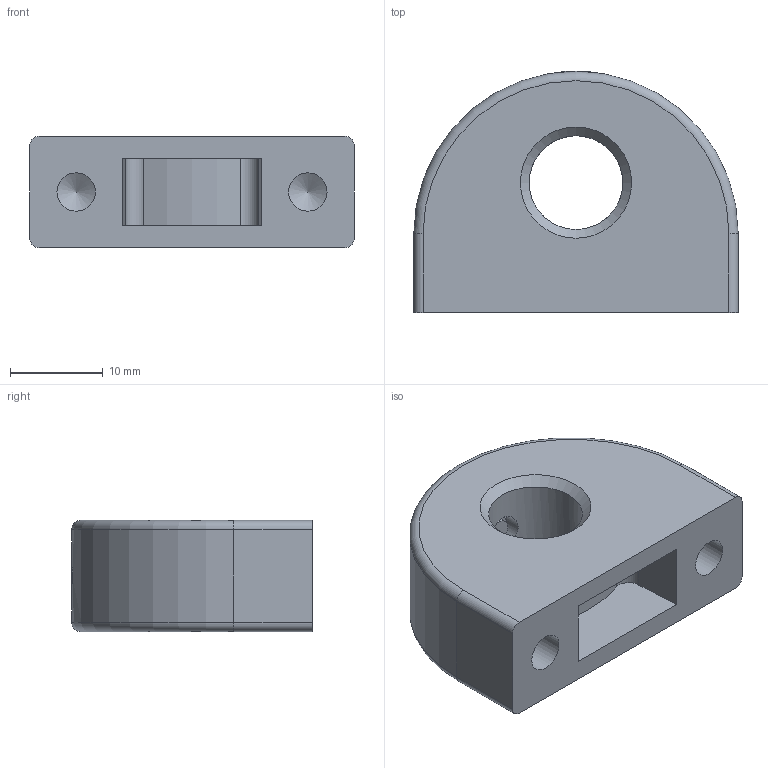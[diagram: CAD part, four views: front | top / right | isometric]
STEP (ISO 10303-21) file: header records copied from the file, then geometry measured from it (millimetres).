
FILE_DESCRIPTION( ( 'STEP AP203' ), '1' );
FILE_NAME( 'C:/Temp/Ganter_Step_05_03_2020/data/3_1/gn412_1/Mounting block GN 412.1-35-M12-2.stp', '2020-03-12T08:30:55', ( 'License CC BY-ND 4.0' ), ( 'CADENAS' ), ' ', 'PARTsolutions', ' ' );
FILE_SCHEMA( ( 'CONFIG_CONTROL_DESIGN' ) );
Length unit declared in the file: millimetre
Products named in the file (1): _Mounting block GN 412.1-35-M12-2
Bounding box: 35 x 26 x 12 mm (x, y, z)
Volume: 7067.1 mm3; surface area: 3720.3 mm2
Topology: 1 solids, 1 shells, 42 faces, 97 edges, 61 vertices
Faces by surface type: plane 19, cylinder 15, cone 6, torus 2
Full cylindrical faces by diameter (mm): 2.5 x1, 4 x2, 4.134 x2, 10.106 x1, 12.2 x1
Entity records: 1248 total; most frequent: CARTESIAN_POINT 295, DIRECTION 196, ORIENTED_EDGE 160, EDGE_CURVE 80, AXIS2_PLACEMENT_3D 76, EDGE_LOOP 61, VERTEX_POINT 59, FACE_OUTER_BOUND 49
